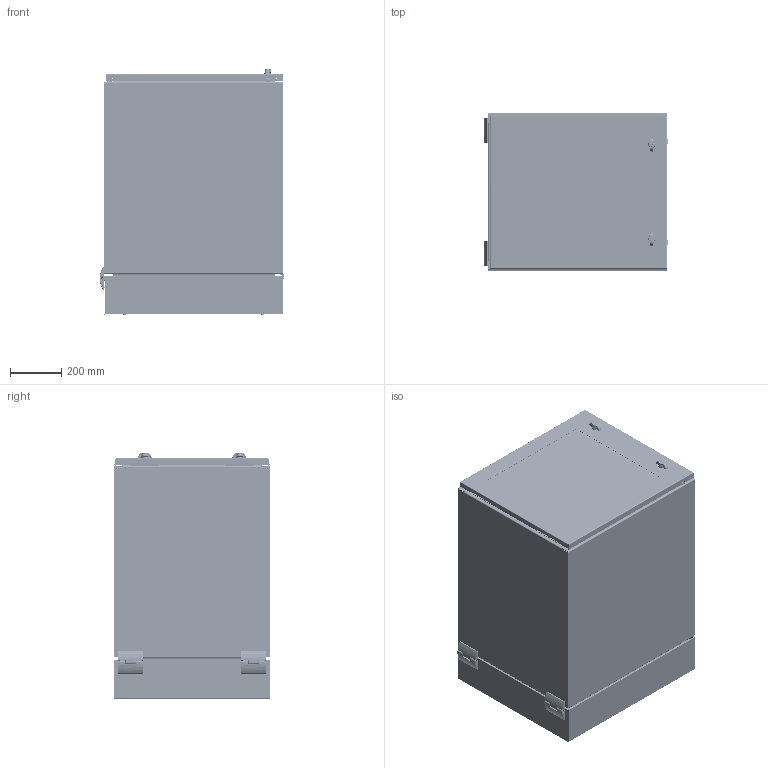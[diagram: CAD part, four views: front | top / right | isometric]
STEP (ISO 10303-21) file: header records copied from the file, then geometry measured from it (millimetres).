
FILE_DESCRIPTION (( 'STEP AP203' ), '1' );
FILE_NAME ('29116.step', '2015-02-10T06:36:03', ( '' ), ( '' ), 'SwSTEP 2.0', 'SolidWorks 2010', '' );
FILE_SCHEMA (( 'CONFIG_CONTROL_DESIGN' ));
Products named in the file (53): 29116; 89080284; 89080283; 89080282; 89060191; 89071699_Installed Config; 89113944; 89113943; 89113942; 89113941; 89080287_89080287; 89080286_Compressed wdw gasket; 89080285_89060269; 60127101_60127101; 60100041_60100041; 87931527_87931527; 87931368_SLEEVE; 89080289; 89080295_Compressed; 99401225; 89071927_FOR 16GA; 99407418; 89080312; 87556213; 64138001; 87922656; 89113746; 89066980; 89066979_WITH STAKE; 89091800; 89066978; 89066977_AS REAMED; 87540581; 87790199; 89090302; 89090300; 89090299_87790201; 60127135_installed position SS; 87543196_Installed; 60127199_60127199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
Assembly tree (134 placements, depth 5):
  29116
    89060213  x2
    89066980  x2
      87540581
      89091800
      89066979_WITH STAKE
    89090302  x2
      89090300
        60127135_installed position SS  x2
        89090299_87790201
        87543196_Installed  x2
      56906712_56906712
      60127199_60127199
    87932150_body cbl mgr horz 4u
    89070550  x2
      89056327
      89070549
    89060212  x2
    87790199  x2
    89103319  x2
    89113746  x2
    89114049_89071543  x2
    89072121_87931339  x2
    89113944
      99401225  x24
      60100041_60100041  x2
        87931368_SLEEVE
        87931527_87931527
      89113941  x2
      89113942
      89113943
    89060214  x2
    89060606_89060606  x2
    89080287_89080287
      87922656  x12
      87556213  x4
      89080312
      64138001  x2
      99407418  x2
      89071927_FOR 16GA  x2
      89080286_Compressed wdw gasket
        99401225  x12
        89080295_Compressed
        89080289
        60127101_60127101  x2
        60100041_60100041
          87931368_SLEEVE
          87931527_87931527
        89080285_89060269
    89066978  x2
      87540581
      89066977_AS REAMED
    89080284
      89071699_Installed Config  x4
      89080282  x2
      89080289
      60100041_60100041
        87931368_SLEEVE
        87931527_87931527
      89080283
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Bounding box: 719.48 x 612 x 960.23 mm (x, y, z)
Volume: 9189648.5 mm3; surface area: 8757095.5 mm2
Topology: 138 solids, 158 shells, 11185 faces, 28020 edges, 17106 vertices
Faces by surface type: plane 4530, cylinder 3204, bspline 1892, cone 703, torus 666, sphere 190
Entity records: 465208 total; most frequent: CARTESIAN_POINT 307327, ORIENTED_EDGE 34158, DIRECTION 27026, EDGE_CURVE 17079, VERTEX_POINT 10529, AXIS2_PLACEMENT_3D 9686, LINE 7654, VECTOR 7654
